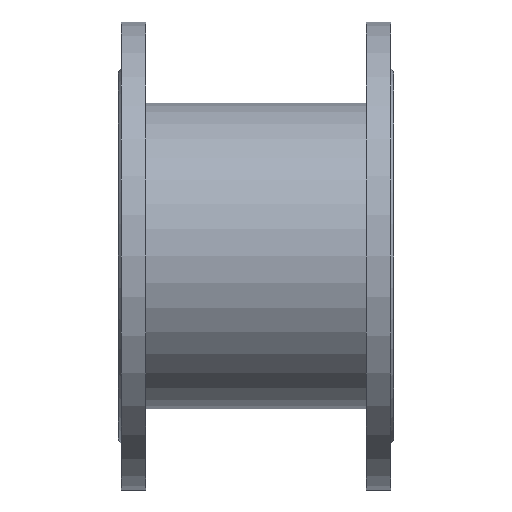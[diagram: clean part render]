
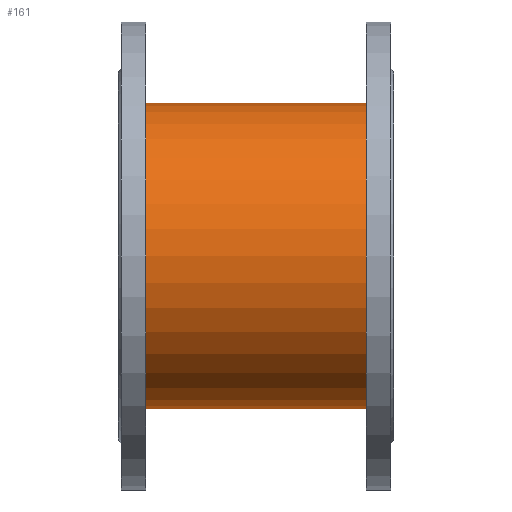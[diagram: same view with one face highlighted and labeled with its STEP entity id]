
A CAD part, front view. The second image highlights one B-rep face of the part: STEP entity #161.
In plain terms, the highlighted cylindrical face has radius 111 mm (diameter 222 mm), a partial arc.
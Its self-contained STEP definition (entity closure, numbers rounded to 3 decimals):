
#161=ADVANCED_FACE('',(#365),#366,.T.);
#365=FACE_OUTER_BOUND('',#627,.T.);
#366=CYLINDRICAL_SURFACE('',#628,111.0);
#627=EDGE_LOOP('',(#957,#958,#959,#960));
#628=AXIS2_PLACEMENT_3D('',#961,#962,#963);
#957=ORIENTED_EDGE('',*,*,#1465,.T.);
#958=ORIENTED_EDGE('',*,*,#1466,.T.);
#959=ORIENTED_EDGE('',*,*,#1467,.T.);
#960=ORIENTED_EDGE('',*,*,#1468,.T.);
#961=CARTESIAN_POINT('',(10.0,0.0,0.));
#962=DIRECTION('',(1.0,0.0,0.));
#963=DIRECTION('',(0.,0.0,-1.0));
#1465=EDGE_CURVE('',#1772,#1773,#1774,.T.);
#1466=EDGE_CURVE('',#1773,#1775,#1776,.T.);
#1467=EDGE_CURVE('',#1775,#1777,#1778,.T.);
#1468=EDGE_CURVE('',#1777,#1772,#1779,.T.);
#1772=VERTEX_POINT('',#2123);
#1773=VERTEX_POINT('',#2124);
#1774=LINE('',#2125,#2126);
#1775=VERTEX_POINT('',#2127);
#1776=CIRCLE('',#2128,111.0);
#1777=VERTEX_POINT('',#2129);
#1778=LINE('',#2130,#2131);
#1779=CIRCLE('',#2132,111.0);
#2123=CARTESIAN_POINT('',(10.0,0.0,-111.0));
#2124=CARTESIAN_POINT('',(190.0,0.0,-111.0));
#2125=CARTESIAN_POINT('',(10.0,0.,-111.0));
#2126=VECTOR('',#2520,1.0);
#2127=CARTESIAN_POINT('',(190.0,0.,111.0));
#2128=AXIS2_PLACEMENT_3D('',#2521,#2522,#2523);
#2129=CARTESIAN_POINT('',(10.,0.,111.0));
#2130=CARTESIAN_POINT('',(10.,0.,111.0));
#2131=VECTOR('',#2524,1.0);
#2132=AXIS2_PLACEMENT_3D('',#2525,#2526,#2527);
#2520=DIRECTION('',(1.0,0.0,0.));
#2521=CARTESIAN_POINT('',(190.0,0.0,0.));
#2522=DIRECTION('',(-1.0,-0.0,0.));
#2523=DIRECTION('',(0.,0.0,-1.0));
#2524=DIRECTION('',(-1.0,-0.0,0.));
#2525=CARTESIAN_POINT('',(10.0,0.0,0.));
#2526=DIRECTION('',(1.0,0.0,0.));
#2527=DIRECTION('',(0.,0.0,-1.0));
